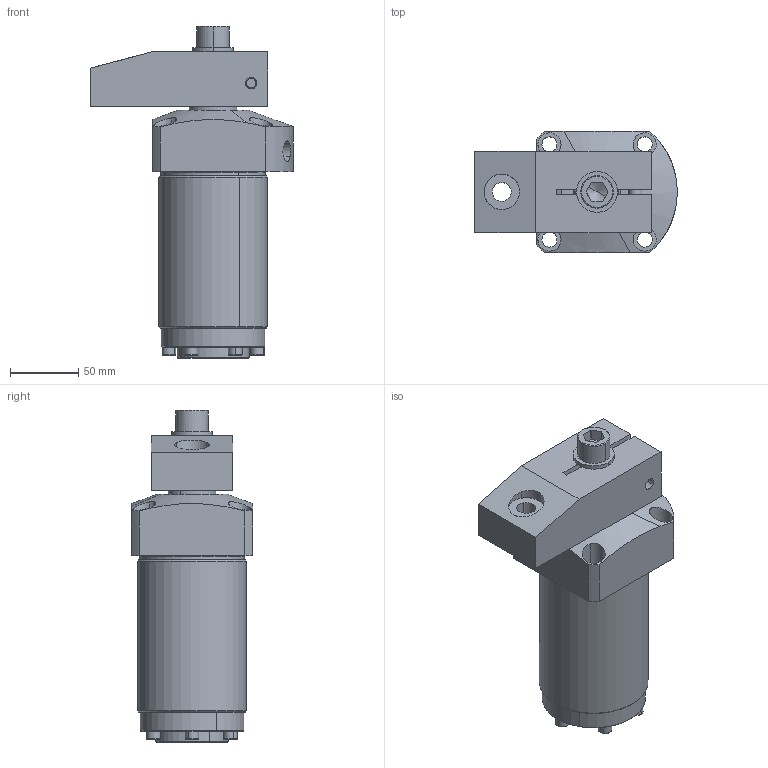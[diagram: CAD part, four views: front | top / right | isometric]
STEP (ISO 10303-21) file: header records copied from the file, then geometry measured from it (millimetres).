
FILE_DESCRIPTION(('CATIA V5 STEP Exchange'),'2;1');
FILE_NAME('\\kjf-102\KJF_TC\Hydraulic_Clamp\Standard\SWING_CLAMP\SDRL-5555\SDX-5555_A\배포도면\SDx-5555_-.stp','2026-09-02T07:31:37+00:00',('none'),('none'),'CATIA Version 5 Release 19 SP 9 (IN-10)','CATIA V5 STEP AP203','none');
FILE_SCHEMA(('CONFIG_CONTROL_DESIGN'));
Length unit declared in the file: millimetre
Products named in the file (1): SDx-5555_E_3GUIDE
Assembly tree (13 placements, depth 2):
  SDx-5555_E_3GUIDE
    #58
    #2266
    #2599
    #3250
    #4407  x6
    #5374
    #6302
    #7163
Bounding box: 149 x 89 x 244 mm (x, y, z)
Volume: 1020737.3 mm3; surface area: 175424.6 mm2
Topology: 13 solids, 13 shells, 409 faces, 967 edges, 609 vertices
Faces by surface type: cylinder 181, plane 124, cone 68, torus 36
Entity records: 7295 total; most frequent: CARTESIAN_POINT 1676, ORIENTED_EDGE 1178, DIRECTION 912, EDGE_CURVE 589, AXIS2_PLACEMENT_3D 479, VERTEX_POINT 379, EDGE_LOOP 312, CIRCLE 294
